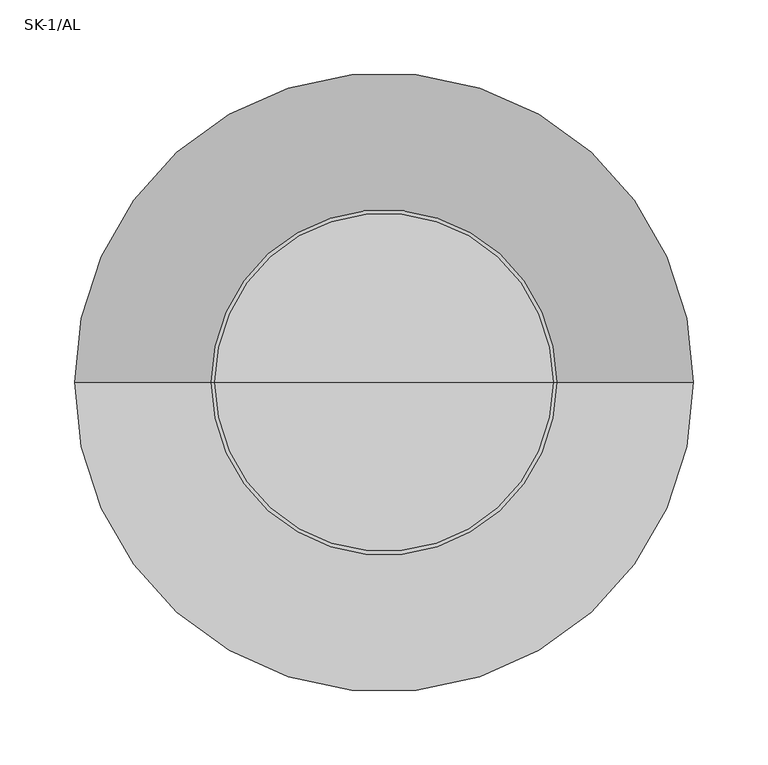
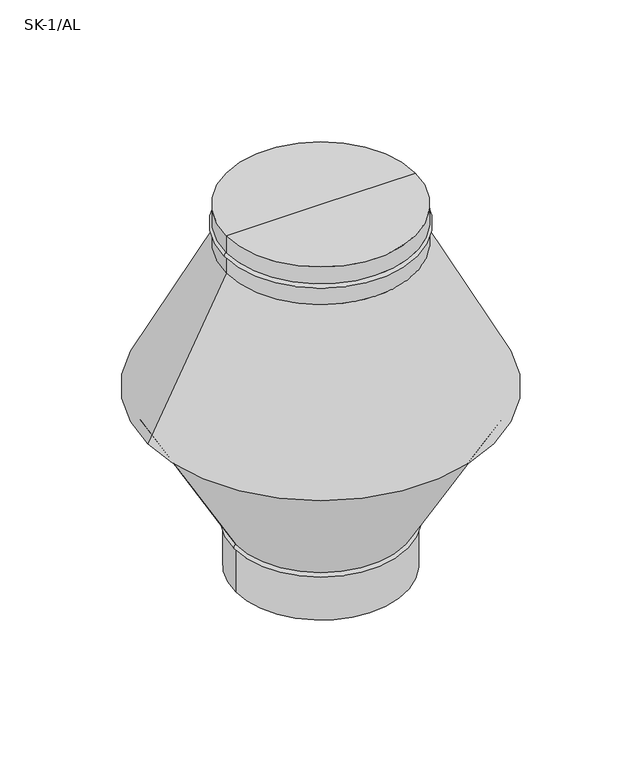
"""IFC4 building model written with IfcOpenShell, lengths in millimetres: air terminal geometry, AIR_FB_Shaft cowl SK-1_SMA : SK-1/AL."""

from ifc_helpers import new_model, si_unit, point, frame, origin, place, context, project, spatial, polyline, circle_curve, ellipse_curve, trimmed, source, transform, mapped, element, save
from ifc_brep_helpers import plane_surface, cylinder_surface, revolved_surface, advanced_brep


def sk_1_al_21574908(model_context):
    return source(origin(), model_context, "Body", "AdvancedBrep", [
        advanced_brep(
        [(205.4, 0.0, 224.7581551), (-205.4, 0.0, 224.7581551), (-207.4, 0.0, 224.7581551), (207.4, 0.0, 224.7581551), (111.3, 0.0, 407.3163102), (-111.3, 0.0, 407.3163102), (-113.3, 0.0, 407.3163102), (113.3, 0.0, 407.3163102), (113.3, 0.0, 455.0), (-113.3, 0.0, 455.0), (0.0, 0.0, 455.0), (113.3, 0.0, 433.6581551), (-113.3, 0.0, 433.6581551), (113.3, 0.0, 428.6581551), (-113.3, 0.0, 428.6581551), (0.0, 0.0, 407.3163102)],
        [
            (0, 1, circle_curve(frame((0.0, 0.0, 224.7581551), z_axis=(0.0, 0.0, 1.0), x_axis=(-1.0, 0.0, 0.0)), 205.4)),
            (1, 2),
            (2, 3, circle_curve(frame((0.0, 0.0, 224.7581551), z_axis=(0.0, 0.0, -1.0), x_axis=(-1.0, 0.0, 0.0)), 207.4)),
            (3, 0),
            (1, 0, circle_curve(frame((0.0, 0.0, 224.7581551), z_axis=(0.0, 0.0, 1.0), x_axis=(-1.0, 0.0, 0.0)), 205.4)),
            (3, 2, circle_curve(frame((0.0, 0.0, 224.7581551), z_axis=(0.0, 0.0, -1.0), x_axis=(-1.0, 0.0, 0.0)), 207.4)),
            (0, 4),
            (4, 5, circle_curve(frame((0.0, 0.0, 407.3163102), z_axis=(0.0, 0.0, 1.0), x_axis=(-1.0, 0.0, 0.0)), 111.3)),
            (5, 1),
            (5, 4, circle_curve(frame((0.0, 0.0, 407.3163102), z_axis=(0.0, 0.0, 1.0), x_axis=(-1.0, 0.0, 0.0)), 111.3)),
            (2, 6),
            (6, 7, circle_curve(frame((0.0, 0.0, 407.3163102), z_axis=(0.0, 0.0, -1.0), x_axis=(-1.0, 0.0, 0.0)), 113.3)),
            (7, 3),
            (7, 6, circle_curve(frame((0.0, 0.0, 407.3163102), z_axis=(0.0, 0.0, -1.0), x_axis=(-1.0, 0.0, 0.0)), 113.3)),
            (8, 9, circle_curve(frame((0.0, 0.0, 455.0), z_axis=(0.0, 0.0, 1.0), x_axis=(-1.0, 0.0, 0.0)), 113.3)),
            (9, 10),
            (10, 8),
            (9, 8, circle_curve(frame((0.0, 0.0, 455.0), z_axis=(0.0, 0.0, 1.0), x_axis=(-1.0, 0.0, 0.0)), 113.3)),
            (8, 11),
            (11, 12, circle_curve(frame((0.0, 0.0, 433.6581551), z_axis=(0.0, 0.0, 1.0), x_axis=(-1.0, 0.0, 0.0)), 113.3)),
            (12, 9),
            (12, 11, circle_curve(frame((0.0, 0.0, 433.6581551), z_axis=(0.0, 0.0, 1.0), x_axis=(-1.0, 0.0, 0.0)), 113.3)),
            (11, 13, circle_curve(frame((113.3, 0.0, 431.1581551), z_axis=(0.0, 1.0, 0.0), x_axis=(-1.0, 0.0, 0.0)), 2.5)),
            (13, 14, circle_curve(frame((0.0, 0.0, 428.6581551), z_axis=(0.0, 0.0, 1.0), x_axis=(-1.0, 0.0, 0.0)), 113.3)),
            (14, 12, circle_curve(frame((-113.3, 0.0, 431.1581551), z_axis=(0.0, 1.0, 0.0), x_axis=(1.0, 0.0, 0.0)), 2.5)),
            (14, 13, circle_curve(frame((0.0, 0.0, 428.6581551), z_axis=(0.0, 0.0, 1.0), x_axis=(-1.0, 0.0, 0.0)), 113.3)),
            (13, 7),
            (6, 14),
            (4, 15),
            (15, 5),
        ],
        [
            plane_surface(frame((0.0, 0.0, 224.7581551), z_axis=(0.0, 0.0, -1.0), x_axis=(-1.0, 0.0, 0.0))),
            revolved_surface(polyline([(-205.4, 0.0, 224.7581551), (-111.3, 0.0, 407.3163102)]), (0.0, 0.0, 2609.0581012), (0.0, 0.0, -1.0)),
            revolved_surface(polyline([(-113.3, 0.0, 407.3163102), (-207.4, 0.0, 224.7581551)]), (0.0, 0.0, 2609.0581012), (0.0, 0.0, -1.0)),
            plane_surface(frame((0.0, 0.0, 455.0), z_axis=(0.0, 0.0, 1.0), x_axis=(-1.0, 0.0, 0.0))),
            cylinder_surface(frame((0.0, 0.0, 2609.0581012), z_axis=(0.0, 0.0, -1.0), x_axis=(-1.0, 0.0, 0.0)), 113.3),
            revolved_surface(trimmed(ellipse_curve(frame((-113.3, 0.0, 431.1581551), z_axis=(0.0, -1.0, 0.0), x_axis=(1.0, 0.0, 0.0)), 2.5, 2.5), [point((-113.3, 0.0, 433.6581551))], [point((-113.3, 0.0, 428.6581551))], True, "CARTESIAN"), (0.0, 0.0, 2609.0581012), (0.0, 0.0, -1.0)),
            plane_surface(frame((0.0, 0.0, 407.3163102), z_axis=(0.0, 0.0, -1.0), x_axis=(-1.0, 0.0, 0.0))),
        ],
        [
            (0, [[1, 2, 3, 4]]),
            (0, [[-2, 5, -4, 6]]),
            (1, [[-1, 7, 8, 9]]),
            (1, [[-5, -9, 10, -7]]),
            (2, [[-3, 11, 12, 13]]),
            (2, [[-6, -13, 14, -11]]),
            (3, [[15, 16, 17]]),
            (3, [[-16, 18, -17]]),
            (4, [[-15, 19, 20, 21]]),
            (4, [[-18, -21, 22, -19]]),
            (5, [[-20, 23, 24, 25]]),
            (5, [[-22, -25, 26, -23]]),
            (4, [[-24, 27, -12, 28]]),
            (4, [[-26, -28, -14, -27]]),
            (6, [[29, 30, -8]]),
            (6, [[-29, -10, -30]]),
        ],
    ),
        advanced_brep(
        [(-102.0, 0.0, 60.0), (-197.1231652, 0.0, 224.7581551), (197.1231652, 0.0, 224.7581551), (102.0, 0.0, 60.0), (195.1231652, 0.0, 224.7581551), (-195.1231652, 0.0, 224.7581551), (-100.0, 0.0, 60.0), (100.0, 0.0, 60.0), (100.0, 0.0, 0.0), (-100.0, 0.0, 0.0), (-102.0, 0.0, 0.0), (102.0, 0.0, 0.0), (-102.0, 0.0, 55.0), (102.0, 0.0, 55.0)],
        [
            (0, 1),
            (1, 2, circle_curve(frame((0.0, 0.0, 224.7581551), z_axis=(0.0, 0.0, -1.0), x_axis=(-1.0, 0.0, 0.0)), 197.1231652)),
            (2, 3),
            (3, 0, circle_curve(frame((0.0, 0.0, 60.0), z_axis=(0.0, 0.0, 1.0), x_axis=(-1.0, 0.0, 0.0)), 102.0)),
            (0, 3, circle_curve(frame((0.0, 0.0, 60.0), z_axis=(0.0, 0.0, 1.0), x_axis=(-1.0, 0.0, 0.0)), 102.0)),
            (2, 1, circle_curve(frame((0.0, 0.0, 224.7581551), z_axis=(0.0, 0.0, -1.0), x_axis=(-1.0, 0.0, 0.0)), 197.1231652)),
            (4, 5, circle_curve(frame((0.0, 0.0, 224.7581551), z_axis=(0.0, 0.0, 1.0), x_axis=(-1.0, 0.0, 0.0)), 195.1231652)),
            (5, 6),
            (6, 7, circle_curve(frame((0.0, 0.0, 60.0), z_axis=(0.0, 0.0, -1.0), x_axis=(-1.0, 0.0, 0.0)), 100.0)),
            (7, 4),
            (5, 4, circle_curve(frame((0.0, 0.0, 224.7581551), z_axis=(0.0, 0.0, 1.0), x_axis=(-1.0, 0.0, 0.0)), 195.1231652)),
            (7, 6, circle_curve(frame((0.0, 0.0, 60.0), z_axis=(0.0, 0.0, -1.0), x_axis=(-1.0, 0.0, 0.0)), 100.0)),
            (1, 5),
            (4, 2),
            (8, 9, circle_curve(frame((0.0, 0.0, 0.0), z_axis=(0.0, 0.0, 1.0), x_axis=(-1.0, 0.0, 0.0)), 100.0)),
            (9, 10),
            (10, 11, circle_curve(frame((0.0, 0.0, 0.0), z_axis=(0.0, 0.0, -1.0), x_axis=(-1.0, 0.0, 0.0)), 102.0)),
            (11, 8),
            (9, 8, circle_curve(frame((0.0, 0.0, 0.0), z_axis=(0.0, 0.0, 1.0), x_axis=(-1.0, 0.0, 0.0)), 100.0)),
            (11, 10, circle_curve(frame((0.0, 0.0, 0.0), z_axis=(0.0, 0.0, -1.0), x_axis=(-1.0, 0.0, 0.0)), 102.0)),
            (8, 7),
            (6, 9),
            (10, 12),
            (12, 13, circle_curve(frame((0.0, 0.0, 55.0), z_axis=(0.0, 0.0, -1.0), x_axis=(-1.0, 0.0, 0.0)), 102.0)),
            (13, 11),
            (13, 12, circle_curve(frame((0.0, 0.0, 55.0), z_axis=(0.0, 0.0, -1.0), x_axis=(-1.0, 0.0, 0.0)), 102.0)),
            (12, 0, circle_curve(frame((-102.0, 0.0, 57.5), z_axis=(0.0, 1.0, 0.0), x_axis=(1.0, 0.0, 0.0)), 2.5)),
            (3, 13, circle_curve(frame((102.0, 0.0, 57.5), z_axis=(0.0, 1.0, 0.0), x_axis=(-1.0, 0.0, 0.0)), 2.5)),
        ],
        [
            revolved_surface(polyline([(-197.1231652, 0.0, 224.7581551), (-102.0, 0.0, 60.0)]), (0.0, 0.0, 2809.0581012), (0.0, 0.0, -1.0)),
            revolved_surface(polyline([(-100.0, 0.0, 60.0), (-195.1231652, 0.0, 224.7581551)]), (0.0, 0.0, 2809.0581012), (0.0, 0.0, -1.0)),
            plane_surface(frame((0.0, 0.0, 224.7581551), z_axis=(0.0, 0.0, 1.0), x_axis=(-1.0, 0.0, 0.0))),
            plane_surface(frame((0.0, 0.0, 0.0), z_axis=(0.0, 0.0, -1.0), x_axis=(-1.0, 0.0, 0.0))),
            revolved_surface(polyline([(-100.0, 0.0, 0.0), (-100.0, 0.0, 60.0)]), (0.0, 0.0, 2809.0581012), (0.0, 0.0, -1.0)),
            cylinder_surface(frame((0.0, 0.0, 2809.0581012), z_axis=(0.0, 0.0, -1.0), x_axis=(-1.0, 0.0, 0.0)), 102.0),
            revolved_surface(trimmed(ellipse_curve(frame((-102.0, 0.0, 57.5), z_axis=(0.0, -1.0, 0.0), x_axis=(1.0, 0.0, 0.0)), 2.5, 2.5), [point((-102.0, 0.0, 60.0))], [point((-102.0, 0.0, 55.0))], True, "CARTESIAN"), (0.0, 0.0, 2809.0581012), (0.0, 0.0, -1.0)),
        ],
        [
            (0, [[1, 2, 3, 4]]),
            (0, [[-1, 5, -3, 6]]),
            (1, [[7, 8, 9, 10]]),
            (1, [[-8, 11, -10, 12]]),
            (2, [[-2, 13, -7, 14]]),
            (2, [[-6, -14, -11, -13]]),
            (3, [[15, 16, 17, 18]]),
            (3, [[-16, 19, -18, 20]]),
            (4, [[-15, 21, -9, 22]]),
            (4, [[-19, -22, -12, -21]]),
            (5, [[-17, 23, 24, 25]]),
            (5, [[-20, -25, 26, -23]]),
            (6, [[-24, 27, -4, 28]]),
            (6, [[-26, -28, -5, -27]]),
        ],
    ),
    ])


if __name__ == "__main__":
    model = new_model("IFC4")
    model_context = context("Model", 3, world=origin())
    ifc_project = project(units=[si_unit("LENGTHUNIT", "METRE", prefix="MILLI")], contexts=[model_context])
    site = spatial("IfcSite", under=ifc_project)
    building = spatial("IfcBuilding", under=site)
    placement = place(None, origin())
    sk_1_al_shape = sk_1_al_21574908(model_context)
    element("IfcAirTerminal", 1, ObjectType="AIR_FB_Shaft cowl SK-1_SMA : SK-1/AL", at=placement, inside=building, context=model_context, shape_type="MappedRepresentation", body=[
        mapped(sk_1_al_shape, transform((0.0, 0.0, 0.0), x_axis=(1.0, 0.0, 0.0), y_axis=(0.0, 1.0, 0.0), z_axis=(0.0, 0.0, 1.0))),
    ])
    save(model, "model.ifc")
